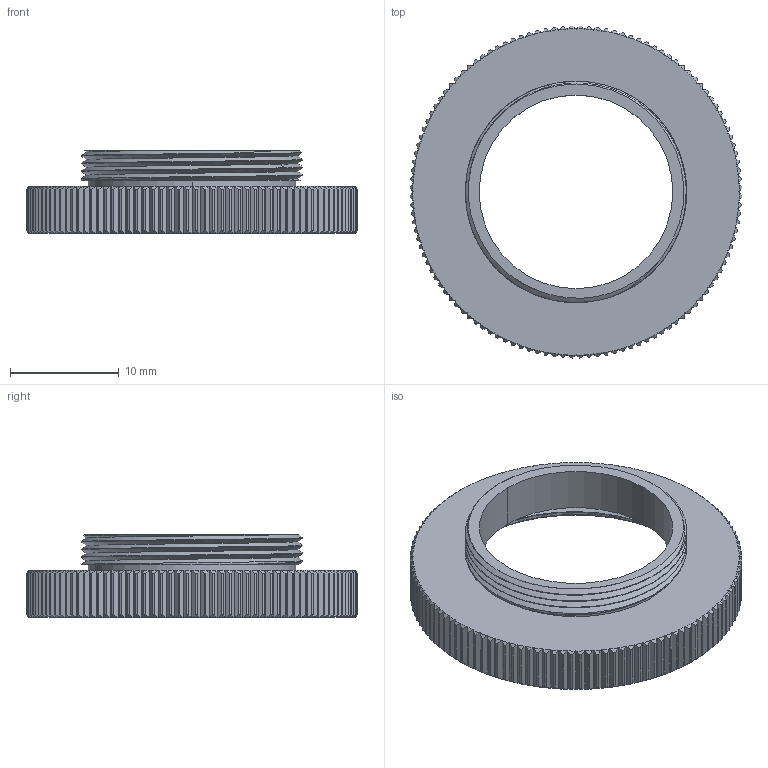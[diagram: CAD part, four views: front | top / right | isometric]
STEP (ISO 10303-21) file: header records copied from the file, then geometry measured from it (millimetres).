
FILE_DESCRIPTION((''),'2;1');
FILE_NAME('RMS-25','2022-02-19T',('daizhiwen'),(''),'CREO PARAMETRIC BY PTC INC, 2018360','CREO PARAMETRIC BY PTC INC, 2018360','');
FILE_SCHEMA(('CONFIG_CONTROL_DESIGN'));
Length unit declared in the file: millimetre
Products named in the file (1): RMS-25
Bounding box: 30.47 x 30.47 x 7.62 mm (x, y, z)
Volume: 1389 mm3; surface area: 2392 mm2
Topology: 1 solids, 1 shells, 640 faces, 1899 edges, 1264 vertices
Faces by surface type: plane 246, cone 243, cylinder 139, bspline 12
Entity records: 24664 total; most frequent: CARTESIAN_POINT 8066, ORIENTED_EDGE 3798, DIRECTION 3124, EDGE_CURVE 1899, VERTEX_POINT 1264, AXIS2_PLACEMENT_3D 1126, VECTOR 872, LINE 872
